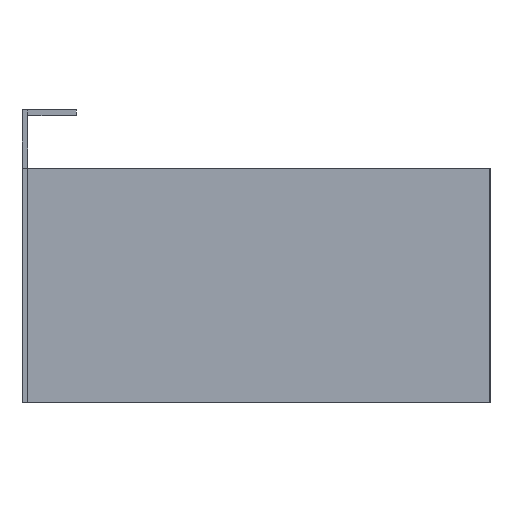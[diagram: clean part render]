
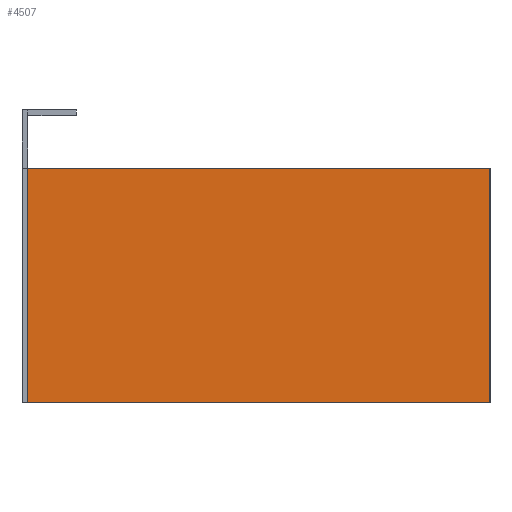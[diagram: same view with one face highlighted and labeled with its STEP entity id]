
A CAD part, left-side view. The second image highlights one B-rep face of the part: STEP entity #4507.
In plain terms, the highlighted planar face has unit normal (-1, 0, 0).
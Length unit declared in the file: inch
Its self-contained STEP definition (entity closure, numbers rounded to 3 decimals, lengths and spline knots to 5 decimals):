
#159 = DIRECTION ( 'NONE',  ( 0., 1., 0. ) ) ;
#582 = LINE ( 'NONE', #1750, #3799 ) ;
#610 = ORIENTED_EDGE ( 'NONE', *, *, #2264, .T. ) ;
#663 = VERTEX_POINT ( 'NONE', #3650 ) ;
#1750 = CARTESIAN_POINT ( 'NONE',  ( -3.12734, -0.062, -6.13085 ) ) ;
#1852 = VECTOR ( 'NONE', #6685, 39.37008 ) ;
#2030 = VECTOR ( 'NONE', #5301, 39.37008 ) ;
#2246 = VERTEX_POINT ( 'NONE', #4608 ) ;
#2264 = EDGE_CURVE ( 'NONE', #663, #4312, #3986, .T. ) ;
#2543 = VERTEX_POINT ( 'NONE', #3876 ) ;
#2633 = CARTESIAN_POINT ( 'NONE',  ( -3.12734, -4.999, -8.63085 ) ) ;
#2769 = ORIENTED_EDGE ( 'NONE', *, *, #4102, .T. ) ;
#3085 = DIRECTION ( 'NONE',  ( 0., -1., 0. ) ) ;
#3144 = EDGE_LOOP ( 'NONE', ( #610, #5869, #3393, #2769 ) ) ;
#3323 = PLANE ( 'NONE',  #5686 ) ;
#3393 = ORIENTED_EDGE ( 'NONE', *, *, #4992, .F. ) ;
#3650 = CARTESIAN_POINT ( 'NONE',  ( -3.12734, -0.062, -8.63085 ) ) ;
#3799 = VECTOR ( 'NONE', #5975, 39.37008 ) ;
#3808 = CARTESIAN_POINT ( 'NONE',  ( -3.12734, -0.062, -6.13085 ) ) ;
#3876 = CARTESIAN_POINT ( 'NONE',  ( -3.12734, -0.062, -6.13085 ) ) ;
#3986 = LINE ( 'NONE', #4568, #1852 ) ;
#4102 = EDGE_CURVE ( 'NONE', #2543, #663, #582, .T. ) ;
#4165 = CARTESIAN_POINT ( 'NONE',  ( -3.12734, -4.999, -6.13085 ) ) ;
#4312 = VERTEX_POINT ( 'NONE', #2633 ) ;
#4334 = EDGE_CURVE ( 'NONE', #2246, #4312, #6341, .T. ) ;
#4507 = ADVANCED_FACE ( 'NONE', ( #6450 ), #3323, .F. ) ;
#4568 = CARTESIAN_POINT ( 'NONE',  ( -3.12734, -0.062, -8.63085 ) ) ;
#4608 = CARTESIAN_POINT ( 'NONE',  ( -3.12734, -4.999, -6.13085 ) ) ;
#4992 = EDGE_CURVE ( 'NONE', #2543, #2246, #6247, .T. ) ;
#5301 = DIRECTION ( 'NONE',  ( 0., 0., -1. ) ) ;
#5686 = AXIS2_PLACEMENT_3D ( 'NONE', #3808, #5861, #159 ) ;
#5786 = CARTESIAN_POINT ( 'NONE',  ( -3.12734, -0.062, -6.13085 ) ) ;
#5861 = DIRECTION ( 'NONE',  ( 1., 0., 0. ) ) ;
#5869 = ORIENTED_EDGE ( 'NONE', *, *, #4334, .F. ) ;
#5975 = DIRECTION ( 'NONE',  ( 0., 0., -1. ) ) ;
#6247 = LINE ( 'NONE', #5786, #6801 ) ;
#6341 = LINE ( 'NONE', #4165, #2030 ) ;
#6450 = FACE_OUTER_BOUND ( 'NONE', #3144, .T. ) ;
#6685 = DIRECTION ( 'NONE',  ( 0., -1., 0. ) ) ;
#6801 = VECTOR ( 'NONE', #3085, 39.37008 ) ;
